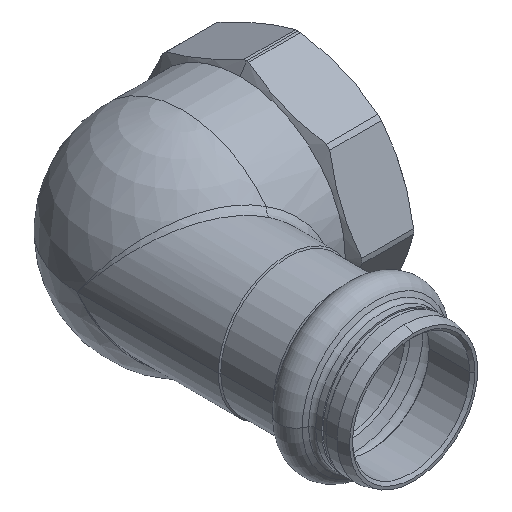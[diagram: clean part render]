
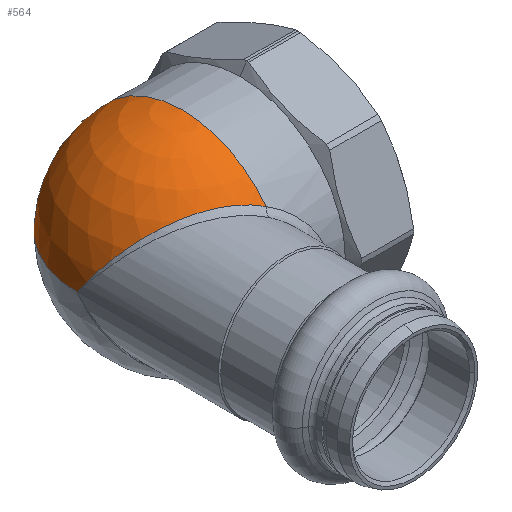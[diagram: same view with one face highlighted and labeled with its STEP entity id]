
A CAD part, isometric view. The second image highlights one B-rep face of the part: STEP entity #564.
In plain terms, the highlighted spherical face has radius 20 mm.
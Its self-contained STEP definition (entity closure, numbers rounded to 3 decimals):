
#128 = CARTESIAN_POINT ( 'NONE',  ( 1.034, -13.368, 13.644 ) ) ;
#161 = DIRECTION ( 'NONE',  ( 0., 1., 0. ) ) ;
#347 = CARTESIAN_POINT ( 'NONE',  ( -13., 0., 0. ) ) ;
#359 = CARTESIAN_POINT ( 'NONE',  ( -13., -0.766, 1.121 ) ) ;
#370 = CARTESIAN_POINT ( 'NONE',  ( -12.862, -1.529, 2.239 ) ) ;
#399 = CARTESIAN_POINT ( 'NONE',  ( 2.256, -13.937, 13.554 ) ) ;
#510 = EDGE_LOOP ( 'NONE', ( #1256, #881, #1172 ) ) ;
#564 = ADVANCED_FACE ( 'NONE', ( #2821 ), #2142, .T. ) ;
#587 = CARTESIAN_POINT ( 'NONE',  ( -12.314, -3.051, 4.416 ) ) ;
#615 = CIRCLE ( 'NONE', #3525, 20. ) ;
#617 = DIRECTION ( 'NONE',  ( 0., 0., -1. ) ) ;
#677 = CARTESIAN_POINT ( 'NONE',  ( 2.873, -14.216, 13.466 ) ) ;
#795 = CARTESIAN_POINT ( 'NONE',  ( 7., -15.954, 12.06 ) ) ;
#835 = AXIS2_PLACEMENT_3D ( 'NONE', #2654, #617, #161 ) ;
#856 = VERTEX_POINT ( 'NONE', #2891 ) ;
#881 = ORIENTED_EDGE ( 'NONE', *, *, #3059, .T. ) ;
#935 = CARTESIAN_POINT ( 'NONE',  ( -11.911, -3.796, 5.456 ) ) ;
#1091 = CARTESIAN_POINT ( 'NONE',  ( 7., 0., 0. ) ) ;
#1172 = ORIENTED_EDGE ( 'NONE', *, *, #1729, .T. ) ;
#1200 = CARTESIAN_POINT ( 'NONE',  ( -11.118, -4.908, 6.935 ) ) ;
#1226 = CARTESIAN_POINT ( 'NONE',  ( 4.688, -15.013, 13.079 ) ) ;
#1256 = ORIENTED_EDGE ( 'NONE', *, *, #2411, .T. ) ;
#1374 = DIRECTION ( 'NONE',  ( 0., -1., 0. ) ) ;
#1579 = CARTESIAN_POINT ( 'NONE',  ( -5.845, -9.568, 12.054 ) ) ;
#1585 = CARTESIAN_POINT ( 'NONE',  ( 7., 0., 0. ) ) ;
#1727 = CARTESIAN_POINT ( 'NONE',  ( -10.823, -5.277, 7.414 ) ) ;
#1729 = EDGE_CURVE ( 'NONE', #856, #2375, #2902, .T. ) ;
#1780 = CARTESIAN_POINT ( 'NONE',  ( 7., -15.954, 12.06 ) ) ;
#1865 = DIRECTION ( 'NONE',  ( 1., 0., 0. ) ) ;
#1994 = AXIS2_PLACEMENT_3D ( 'NONE', #1585, #3495, #1865 ) ;
#2010 = CARTESIAN_POINT ( 'NONE',  ( -3.117, -11.216, 13.113 ) ) ;
#2011 = CARTESIAN_POINT ( 'NONE',  ( -7.793, -8.17, 10.782 ) ) ;
#2142 = SPHERICAL_SURFACE ( 'NONE', #835, 20. ) ;
#2239 = CARTESIAN_POINT ( 'NONE',  ( -4.795, -10.24, 12.563 ) ) ;
#2266 = CARTESIAN_POINT ( 'NONE',  ( -3.4, -11.055, 13.028 ) ) ;
#2273 = CARTESIAN_POINT ( 'NONE',  ( -2.249, -11.698, 13.331 ) ) ;
#2310 = CARTESIAN_POINT ( 'NONE',  ( 7., 20., 0. ) ) ;
#2326 = CARTESIAN_POINT ( 'NONE',  ( -10.166, -6.017, 8.342 ) ) ;
#2351 = CARTESIAN_POINT ( 'NONE',  ( 5.865, -15.502, 12.659 ) ) ;
#2375 = VERTEX_POINT ( 'NONE', #795 ) ;
#2411 = EDGE_CURVE ( 'NONE', #2375, #2553, #615, .T. ) ;
#2553 = VERTEX_POINT ( 'NONE', #2310 ) ;
#2609 = CARTESIAN_POINT ( 'NONE',  ( 0.428, -13.077, 13.648 ) ) ;
#2619 = CARTESIAN_POINT ( 'NONE',  ( -0.772, -12.479, 13.577 ) ) ;
#2654 = CARTESIAN_POINT ( 'NONE',  ( 7., 0., 0. ) ) ;
#2821 = FACE_OUTER_BOUND ( 'NONE', #510, .T. ) ;
#2840 = CARTESIAN_POINT ( 'NONE',  ( -1.367, -12.172, 13.502 ) ) ;
#2879 = CARTESIAN_POINT ( 'NONE',  ( -9.809, -6.383, 8.784 ) ) ;
#2891 = CARTESIAN_POINT ( 'NONE',  ( -13., 0., 0. ) ) ;
#2902 = B_SPLINE_CURVE_WITH_KNOTS ( 'NONE', 3,
 ( #347, #359, #370, #587, #935, #1200, #1727, #2326, #2879, #3131, #2011, #1579, #2239, #2266, #2010, #3369, #2273, #2840, #2619, #2609, #128, #399, #677, #1226, #2351, #1780 ),
 .UNSPECIFIED., .F., .F.,
 ( 4, 2, 2, 2, 2, 2, 2, 2, 2, 2, 2, 2, 4 ),
 ( 0., 0.004, 0.008, 0.01, 0.012, 0.016, 0.02, 0.021, 0.022, 0.024, 0.026, 0.028, 0.033 ),
 .UNSPECIFIED. ) ;
#3026 = DIRECTION ( 'NONE',  ( -1., 0., 0. ) ) ;
#3059 = EDGE_CURVE ( 'NONE', #2553, #856, #3111, .T. ) ;
#3111 = CIRCLE ( 'NONE', #1994, 20. ) ;
#3131 = CARTESIAN_POINT ( 'NONE',  ( -8.662, -7.466, 10.039 ) ) ;
#3369 = CARTESIAN_POINT ( 'NONE',  ( -2.542, -11.538, 13.264 ) ) ;
#3495 = DIRECTION ( 'NONE',  ( 0., 0., 1. ) ) ;
#3525 = AXIS2_PLACEMENT_3D ( 'NONE', #1091, #3026, #1374 ) ;
